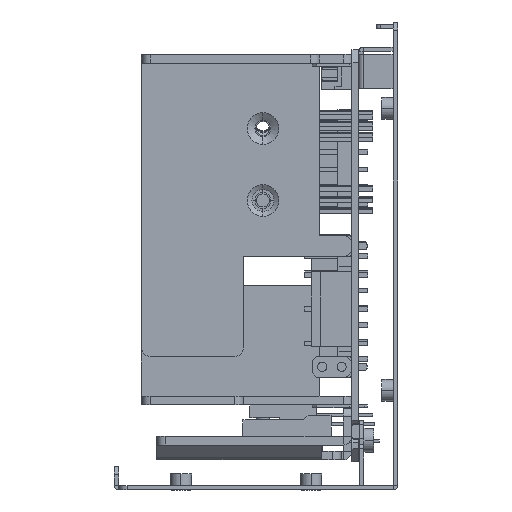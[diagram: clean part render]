
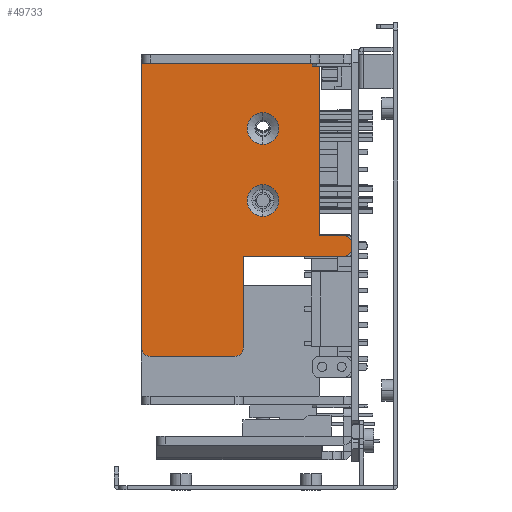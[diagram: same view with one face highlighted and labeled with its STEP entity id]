
A CAD part, left-side view. The second image highlights one B-rep face of the part: STEP entity #49733.
In plain terms, the highlighted planar face has unit normal (-1, 0, 0).
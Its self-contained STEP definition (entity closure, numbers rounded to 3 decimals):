
#49057=DIRECTION('',(0.,-1.,0.));
#49058=VECTOR('',#49057,65.5);
#49059=CARTESIAN_POINT('',(-2.,-2.,-48.5));
#49060=LINE('',#49059,#49058);
#49061=CARTESIAN_POINT('',(-2.,-33.6,-20.5));
#49062=DIRECTION('',(1.,0.,0.));
#49063=DIRECTION('',(0.,1.,0.));
#49064=AXIS2_PLACEMENT_3D('',#49061,#49062,#49063);
#49066=CARTESIAN_POINT('',(-2.,-33.6,-20.5));
#49067=DIRECTION('',(1.,0.,0.));
#49068=DIRECTION('',(0.,-1.,0.));
#49069=AXIS2_PLACEMENT_3D('',#49066,#49067,#49068);
#49071=CARTESIAN_POINT('',(-2.,-17.,-20.5));
#49072=DIRECTION('',(1.,0.,0.));
#49073=DIRECTION('',(0.,1.,0.));
#49074=AXIS2_PLACEMENT_3D('',#49071,#49072,#49073);
#49076=CARTESIAN_POINT('',(-2.,-17.,-20.5));
#49077=DIRECTION('',(1.,0.,0.));
#49078=DIRECTION('',(0.,-1.,0.));
#49079=AXIS2_PLACEMENT_3D('',#49076,#49077,#49078);
#49081=DIRECTION('',(0.,-1.,0.));
#49082=VECTOR('',#49081,0.8);
#49083=CARTESIAN_POINT('',(-2.,-43.7,0.));
#49084=LINE('',#49083,#49082);
#49085=CARTESIAN_POINT('',(-2.,-44.5,-2.));
#49086=DIRECTION('',(-1.,0.,0.));
#49087=DIRECTION('',(0.,-1.,0.));
#49088=AXIS2_PLACEMENT_3D('',#49085,#49086,#49087);
#49090=DIRECTION('',(0.,0.,-1.));
#49091=VECTOR('',#49090,23.);
#49092=CARTESIAN_POINT('',(-2.,-46.5,-2.));
#49093=LINE('',#49092,#49091);
#49094=DIRECTION('',(0.,1.,0.));
#49095=VECTOR('',#49094,21.);
#49096=CARTESIAN_POINT('',(-2.,-67.5,-25.));
#49097=LINE('',#49096,#49095);
#49098=CARTESIAN_POINT('',(-2.,-67.5,-27.));
#49099=DIRECTION('',(-1.,0.,0.));
#49100=DIRECTION('',(0.,-1.,0.));
#49101=AXIS2_PLACEMENT_3D('',#49098,#49099,#49100);
#49103=DIRECTION('',(0.,0.,1.));
#49104=VECTOR('',#49103,19.5);
#49105=CARTESIAN_POINT('',(-2.,-69.5,-46.5));
#49106=LINE('',#49105,#49104);
#49107=CARTESIAN_POINT('',(-2.,-67.5,-46.5));
#49108=DIRECTION('',(-1.,0.,0.));
#49109=DIRECTION('',(0.,0.,-1.));
#49110=AXIS2_PLACEMENT_3D('',#49107,#49108,#49109);
#49112=DIRECTION('',(0.,0.,1.));
#49113=VECTOR('',#49112,41.);
#49114=CARTESIAN_POINT('',(-2.,-2.,-48.5));
#49115=LINE('',#49114,#49113);
#49116=DIRECTION('',(0.,-1.,0.));
#49117=VECTOR('',#49116,39.7);
#49118=CARTESIAN_POINT('',(-2.,-2.,-7.5));
#49119=LINE('',#49118,#49117);
#49120=DIRECTION('',(0.,0.,-1.));
#49121=VECTOR('',#49120,5.5);
#49122=CARTESIAN_POINT('',(-2.,-41.7,-2.));
#49123=LINE('',#49122,#49121);
#49124=CARTESIAN_POINT('',(-2.,-43.7,-2.));
#49125=DIRECTION('',(-1.,0.,0.));
#49126=DIRECTION('',(0.,0.,1.));
#49127=AXIS2_PLACEMENT_3D('',#49124,#49125,#49126);
#49337=CARTESIAN_POINT('',(-2.,-2.,-48.5));
#49338=VERTEX_POINT('',#49337);
#49348=CARTESIAN_POINT('',(-2.,-2.,-7.5));
#49350=VERTEX_POINT('',#49348);
#49351=CARTESIAN_POINT('',(-2.,-41.7,-7.5));
#49352=VERTEX_POINT('',#49351);
#49377=CARTESIAN_POINT('',(-2.,-43.7,0.));
#49378=CARTESIAN_POINT('',(-2.,-44.5,0.));
#49379=VERTEX_POINT('',#49377);
#49380=VERTEX_POINT('',#49378);
#49389=CARTESIAN_POINT('',(-2.,-29.95,-20.5));
#49390=CARTESIAN_POINT('',(-2.,-37.25,-20.5));
#49391=VERTEX_POINT('',#49389);
#49392=VERTEX_POINT('',#49390);
#49397=CARTESIAN_POINT('',(-2.,-13.35,-20.5));
#49398=CARTESIAN_POINT('',(-2.,-20.65,-20.5));
#49399=VERTEX_POINT('',#49397);
#49400=VERTEX_POINT('',#49398);
#49405=CARTESIAN_POINT('',(-2.,-46.5,-25.));
#49407=VERTEX_POINT('',#49405);
#49411=CARTESIAN_POINT('',(-2.,-46.5,-2.));
#49412=VERTEX_POINT('',#49411);
#49413=CARTESIAN_POINT('',(-2.,-67.5,-48.5));
#49414=CARTESIAN_POINT('',(-2.,-69.5,-46.5));
#49415=VERTEX_POINT('',#49413);
#49416=VERTEX_POINT('',#49414);
#49421=CARTESIAN_POINT('',(-2.,-69.5,-27.));
#49422=CARTESIAN_POINT('',(-2.,-67.5,-25.));
#49423=VERTEX_POINT('',#49421);
#49424=VERTEX_POINT('',#49422);
#49447=CARTESIAN_POINT('',(-2.,-41.7,-2.));
#49448=VERTEX_POINT('',#49447);
#49692=CARTESIAN_POINT('',(-2.,0.,0.));
#49693=DIRECTION('',(1.,0.,0.));
#49694=DIRECTION('',(0.,0.,1.));
#49695=AXIS2_PLACEMENT_3D('',#49692,#49693,#49694);
#49696=PLANE('',#49695);
#49698=ORIENTED_EDGE('',*,*,#49697,.T.);
#49700=ORIENTED_EDGE('',*,*,#49699,.F.);
#49702=ORIENTED_EDGE('',*,*,#49701,.T.);
#49704=ORIENTED_EDGE('',*,*,#49703,.F.);
#49706=ORIENTED_EDGE('',*,*,#49705,.F.);
#49708=ORIENTED_EDGE('',*,*,#49707,.F.);
#49709=ORIENTED_EDGE('',*,*,#49682,.F.);
#49710=ORIENTED_EDGE('',*,*,#49672,.F.);
#49712=ORIENTED_EDGE('',*,*,#49711,.T.);
#49714=ORIENTED_EDGE('',*,*,#49713,.T.);
#49716=ORIENTED_EDGE('',*,*,#49715,.F.);
#49718=ORIENTED_EDGE('',*,*,#49717,.F.);
#49719=EDGE_LOOP('',(#49698,#49700,#49702,#49704,#49706,#49708,#49709,#49710,
#49712,#49714,#49716,#49718));
#49720=FACE_OUTER_BOUND('',#49719,.F.);
#49722=ORIENTED_EDGE('',*,*,#49721,.F.);
#49724=ORIENTED_EDGE('',*,*,#49723,.F.);
#49725=EDGE_LOOP('',(#49722,#49724));
#49726=FACE_BOUND('',#49725,.F.);
#49728=ORIENTED_EDGE('',*,*,#49727,.F.);
#49730=ORIENTED_EDGE('',*,*,#49729,.F.);
#49731=EDGE_LOOP('',(#49728,#49730));
#49732=FACE_BOUND('',#49731,.F.);
#49065=CIRCLE('',#49064,3.65);
#49070=CIRCLE('',#49069,3.65);
#49075=CIRCLE('',#49074,3.65);
#49080=CIRCLE('',#49079,3.65);
#49089=CIRCLE('',#49088,2.);
#49102=CIRCLE('',#49101,2.);
#49111=CIRCLE('',#49110,2.);
#49128=CIRCLE('',#49127,2.);
#49672=EDGE_CURVE('',#49338,#49415,#49060,.T.);
#49682=EDGE_CURVE('',#49415,#49416,#49111,.T.);
#49697=EDGE_CURVE('',#49379,#49380,#49084,.T.);
#49699=EDGE_CURVE('',#49412,#49380,#49089,.T.);
#49701=EDGE_CURVE('',#49412,#49407,#49093,.T.);
#49703=EDGE_CURVE('',#49424,#49407,#49097,.T.);
#49705=EDGE_CURVE('',#49423,#49424,#49102,.T.);
#49707=EDGE_CURVE('',#49416,#49423,#49106,.T.);
#49711=EDGE_CURVE('',#49338,#49350,#49115,.T.);
#49713=EDGE_CURVE('',#49350,#49352,#49119,.T.);
#49715=EDGE_CURVE('',#49448,#49352,#49123,.T.);
#49717=EDGE_CURVE('',#49379,#49448,#49128,.T.);
#49721=EDGE_CURVE('',#49399,#49400,#49075,.T.);
#49723=EDGE_CURVE('',#49400,#49399,#49080,.T.);
#49727=EDGE_CURVE('',#49391,#49392,#49065,.T.);
#49729=EDGE_CURVE('',#49392,#49391,#49070,.T.);
#49733=ADVANCED_FACE('',(#49720,#49726,#49732),#49696,.F.);
